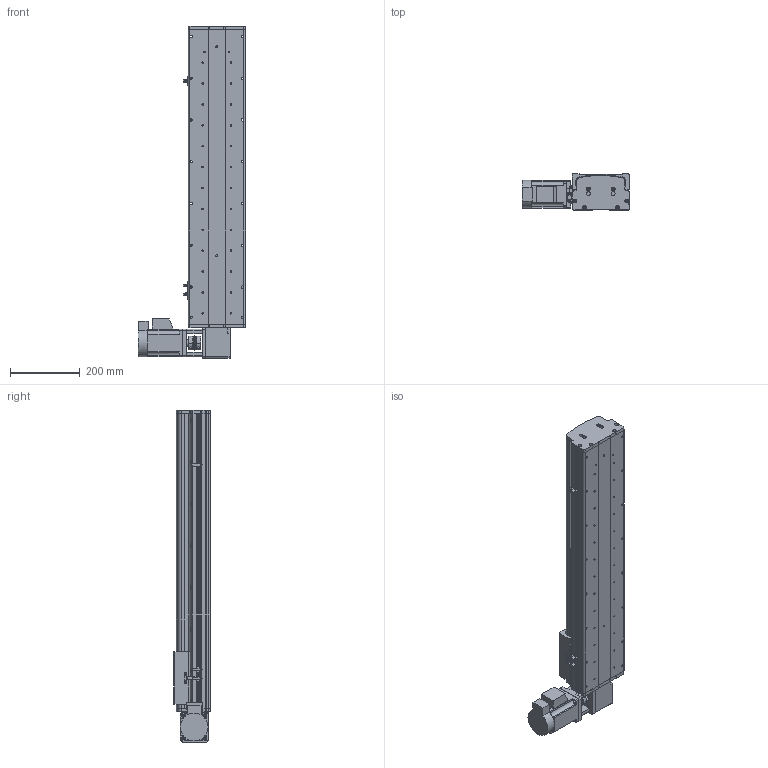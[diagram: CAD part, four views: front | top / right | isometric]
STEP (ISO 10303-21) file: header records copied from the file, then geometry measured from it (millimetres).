
FILE_DESCRIPTION (( 'STEP AP214' ), '1' );
FILE_NAME ('KSD165B-S600-MRT-CM - .STEP', '2017-10-17T01:18:31', ( '微软用户' ), ( '微软中国' ), 'SwSTEP 2.0', 'SolidWorks 2014', '' );
FILE_SCHEMA (( 'AUTOMOTIVE_DESIGN' ));
Length unit declared in the file: millimetre
Products named in the file (16): C39ㄜ1419WP; U倰嫖萇假蚾璃; U倰嫖萇EEㄜSX672; 覜茼え68遵圉猾敕; KSD165模组-同步带-防撞垫2; KSD165模组同步带-防撞垫1; KSD165耀郪-ヶ傷啣1-肮祭湍; KSD165模组-后端板1-同步带; 130宽马达安装板1-带电机座750W（1）; KSD165模组-同步带滑动座-最新版; KSD165B-S600-MRT-CM - ; 拸秶雄ん750W侜督萇儂; KSD165模组-同步带防尘盖1-600行程-最新版; KSD165模组同步带底板-600行程-最新; 165宽安装板同步带带电机座750W; 165宽马达安装板同步带左-改
Assembly tree (19 placements, depth 2):
  KSD165B-S600-MRT-CM - 
    KSD165模组-同步带滑动座-最新版
    130宽马达安装板1-带电机座750W（1）
    KSD165模组-后端板1-同步带
    KSD165耀郪-ヶ傷啣1-肮祭湍
    KSD165模组同步带-防撞垫1
    KSD165模组-同步带-防撞垫2
    覜茼え68遵圉猾敕
    U倰嫖萇EEㄜSX672  x3
    U倰嫖萇假蚾璃  x3
    C39ㄜ1419WP
    165宽马达安装板同步带左-改
    165宽安装板同步带带电机座750W
    KSD165模组同步带底板-600行程-最新
    KSD165模组-同步带防尘盖1-600行程-最新版
    拸秶雄ん750W侜督萇儂
Bounding box: 307.5 x 104 x 954 mm (x, y, z)
Volume: 6078162.2 mm3; surface area: 1357992.7 mm2
Topology: 20 solids, 21 shells, 1460 faces, 4050 edges, 2621 vertices
Faces by surface type: cylinder 789, plane 577, cone 94
Entity records: 46043 total; most frequent: CARTESIAN_POINT 9667, DIRECTION 7176, ORIENTED_EDGE 6752, EDGE_CURVE 3376, AXIS2_PLACEMENT_3D 2722, VERTEX_POINT 2213, VECTOR 1732, LINE 1732
